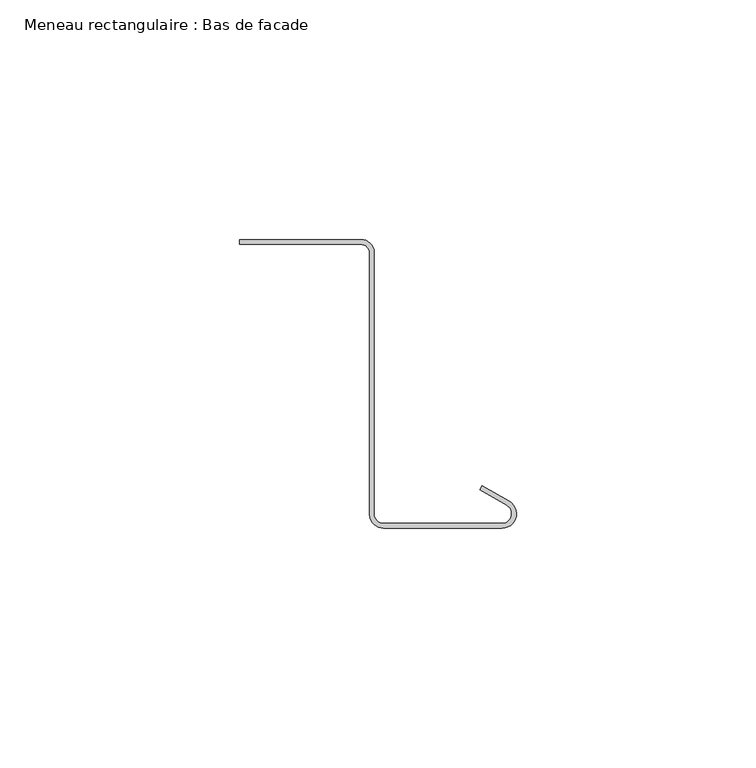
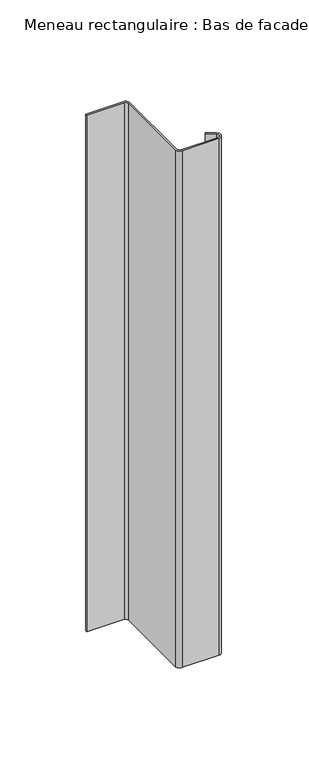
"""IFC4 building model written with IfcOpenShell, lengths in millimetres: member geometry, Meneau rectangulaire : Bas de facade."""

import ifcopenshell
import ifcopenshell.guid

model = None  # the IFC model being written
_history = None  # IfcOwnerHistory: only IFC2X3 demands one
_inside = {}  # id of a spatial element -> (the spatial element, [elements in it])
_under = {}  # id of a project, library or spatial element -> (it, [spatial elements below it])
_declared = {}  # id of a project -> (the project, [libraries it declares])
_typed = {}  # id of a type object -> (the type object, [elements of that type])
_made_of = {}  # id of a material, layer set ... -> (it, [elements and type objects made of it])


def new_model(schema):
    """Start an empty IFC model of exactly this schema.

    Asked for "IFC4X3", IfcOpenShell would pick the latest addendum, in which some entities
    have other attributes; the version numbers below select the first issue.
    IFC2X3 requires an IfcOwnerHistory on every rooted entity: one is made here for all.
    """
    global model, _history
    if schema == "IFC4X3":
        model = ifcopenshell.file(schema_version=(4, 3, 0, 0))
    else:
        model = ifcopenshell.file(schema=schema)
    _inside.clear()
    _under.clear()
    _declared.clear()
    _typed.clear()
    _made_of.clear()
    _history = None
    if model.schema == "IFC2X3":
        org = make("IfcOrganization", Name="unknown")
        user = make(
            "IfcPersonAndOrganization",
            ThePerson=make("IfcPerson", FamilyName="unknown"),
            TheOrganization=org,
        )
        app = make(
            "IfcApplication",
            ApplicationDeveloper=org,
            Version="unknown",
            ApplicationFullName="unknown",
            ApplicationIdentifier="unknown",
        )
        _history = make(
            "IfcOwnerHistory",
            OwningUser=user,
            OwningApplication=app,
            ChangeAction="ADDED",
            CreationDate=0,
        )
    return model


def make(cls, **values):
    """One entity of the class cls with the attributes given. An attribute that is None is left unset."""
    return model.create_entity(
        cls, **{name: value for name, value in values.items() if value is not None}
    )


def rooted(cls, **values):
    """An entity with a GlobalId (a new one), such as an element, a storey or a relation."""
    return make(cls, GlobalId=ifcopenshell.guid.new(), OwnerHistory=_history, **values)


def si_unit(unit_type, name, prefix=None):
    """IfcSIUnit, for example si_unit("LENGTHUNIT", "METRE", prefix="MILLI")."""
    return make("IfcSIUnit", UnitType=unit_type, Prefix=prefix, Name=name)


def assignment(units):
    """IfcUnitAssignment: the units of a project."""
    return None if units is None else make("IfcUnitAssignment", Units=units)


def point(xyz):
    """IfcCartesianPoint."""
    return None if xyz is None else make("IfcCartesianPoint", Coordinates=xyz)


def direction(xyz):
    """IfcDirection."""
    return None if xyz is None else make("IfcDirection", DirectionRatios=xyz)


def frame(location, z_axis=None, x_axis=None):
    """IfcAxis2Placement3D, a coordinate frame: its origin and axes. An axis left out is left unset."""
    return make(
        "IfcAxis2Placement3D",
        Location=point(location),
        Axis=direction(z_axis),
        RefDirection=direction(x_axis),
    )


def frame_2d(location, x_axis=None):
    """IfcAxis2Placement2D, a coordinate frame in the plane: its origin and x axis."""
    return make(
        "IfcAxis2Placement2D", Location=point(location), RefDirection=direction(x_axis)
    )


def origin():
    """The frame at (0, 0, 0) with its axes left unset."""
    return frame((0.0, 0.0, 0.0))


def place(relative_to, where):
    """IfcLocalPlacement: puts the frame where relative to a parent placement (None: the world)."""
    return make(
        "IfcLocalPlacement", PlacementRelTo=relative_to, RelativePlacement=where
    )


def context(
    kind, dimensions, precision=None, world=None, true_north=None, identifier=None
):
    """IfcGeometricRepresentationContext, for example the 3D "Model" context."""
    return make(
        "IfcGeometricRepresentationContext",
        ContextIdentifier=identifier,
        ContextType=kind,
        CoordinateSpaceDimension=dimensions,
        Precision=precision,
        WorldCoordinateSystem=world,
        TrueNorth=true_north,
    )


def project(units=None, contexts=None):
    """IfcProject with its units and contexts."""
    return rooted(
        "IfcProject",
        Name="project",
        RepresentationContexts=contexts,
        UnitsInContext=assignment(units),
    )


def spatial(cls, under=None, at=None, **own):
    """A site, building, storey or space (cls), placed at a placement, below another one or the project."""
    s = rooted(cls, ObjectPlacement=at, **own)
    if under is not None:
        _under.setdefault(under.id(), (under, []))[1].append(s)
    return s


def polyline(points):
    """IfcPolyline through the points."""
    return make("IfcPolyline", Points=[point(p) for p in points])


def circle_curve(where, radius):
    """IfcCircle in the frame where."""
    return make("IfcCircle", Position=where, Radius=radius)


def trimmed(basis, trim1, trim2, sense, master):
    """IfcTrimmedCurve: the piece of a basis curve between two trims."""
    return make(
        "IfcTrimmedCurve",
        BasisCurve=basis,
        Trim1=trim1,
        Trim2=trim2,
        SenseAgreement=sense,
        MasterRepresentation=master,
    )


def segment(curve, same_sense, transition):
    """IfcCompositeCurveSegment."""
    return make(
        "IfcCompositeCurveSegment",
        Transition=transition,
        SameSense=same_sense,
        ParentCurve=curve,
    )


def composite_curve(segments, self_intersect=None):
    """IfcCompositeCurve: segments joined end to end."""
    return make("IfcCompositeCurve", Segments=segments, SelfIntersect=self_intersect)


def outline(outer, holes=None, kind="AREA"):
    """IfcArbitraryClosedProfileDef: a profile drawn as a closed curve; with holes, ...WithVoids."""
    if holes is None:
        return make("IfcArbitraryClosedProfileDef", ProfileType=kind, OuterCurve=outer)
    return make(
        "IfcArbitraryProfileDefWithVoids",
        ProfileType=kind,
        OuterCurve=outer,
        InnerCurves=holes,
    )


def extrude(swept, where, along, depth):
    """IfcExtrudedAreaSolid: the profile swept, set in the frame where, extruded along a direction by depth."""
    return make(
        "IfcExtrudedAreaSolid",
        SweptArea=swept,
        Position=where,
        ExtrudedDirection=direction(along),
        Depth=depth,
    )


def shape(context_of_items, identifier, shape_type, items):
    """IfcShapeRepresentation: the items that make up one representation, for example the "Body"."""
    return make(
        "IfcShapeRepresentation",
        ContextOfItems=context_of_items,
        RepresentationIdentifier=identifier,
        RepresentationType=shape_type,
        Items=items,
    )


def source(mapping_origin, context_of_items, identifier, shape_type, items):
    """IfcRepresentationMap: a shape defined once, which mapped items show again and again."""
    return make(
        "IfcRepresentationMap",
        MappingOrigin=mapping_origin,
        MappedRepresentation=shape(context_of_items, identifier, shape_type, items),
    )


def transform(
    local_origin,
    x_axis=None,
    y_axis=None,
    z_axis=None,
    scale=None,
    scale2=None,
    scale3=None,
    uniform=True,
):
    """IfcCartesianTransformationOperator3D, or its non-uniform kind. x_axis, y_axis, z_axis: its Axis1, 2, 3."""
    if uniform:
        return make(
            "IfcCartesianTransformationOperator3D",
            Axis1=direction(x_axis),
            Axis2=direction(y_axis),
            LocalOrigin=point(local_origin),
            Scale=scale,
            Axis3=direction(z_axis),
        )
    return make(
        "IfcCartesianTransformationOperator3DnonUniform",
        Axis1=direction(x_axis),
        Axis2=direction(y_axis),
        LocalOrigin=point(local_origin),
        Scale=scale,
        Axis3=direction(z_axis),
        Scale2=scale2,
        Scale3=scale3,
    )


def mapped(mapping_source, mapping_target):
    """IfcMappedItem: shows the shape of a source again, moved by a transform."""
    return make(
        "IfcMappedItem", MappingSource=mapping_source, MappingTarget=mapping_target
    )


def made_of(thing, what):
    """Note that an element or type object is made of a material, layer set ...; save() writes the relation."""
    if what is not None:
        _made_of.setdefault(what.id(), (what, []))[1].append(thing)
    return thing


def element(
    cls,
    number,
    at=None,
    inside=None,
    cuts=None,
    type_object=None,
    material=None,
    context=None,
    identifier="Body",
    shape_type=None,
    held_by="IfcProductDefinitionShape",
    body=None,
    shapes=None,
    **own,
):
    """One element of the class cls, such as IfcWall. Its Tag is "e" and its number.

    at: its placement. inside: the storey or other place that contains it. cuts: it is an
    opening in that element (IfcRelVoidsElement). A single representation is given by context,
    identifier, shape_type and body (its items); several are given by shapes. held_by: the class
    of the entity that holds the representations. save() writes the other relations.
    """
    e = rooted(cls, Tag="e%d" % number, ObjectPlacement=at, **own)
    if body is not None:
        shapes = [shape(context, identifier, shape_type, body)]
    if shapes is not None:
        e.Representation = make(held_by, Representations=shapes)
    if inside is not None:
        _inside.setdefault(inside.id(), (inside, []))[1].append(e)
    if cuts is not None:
        rooted(
            "IfcRelVoidsElement", RelatingBuildingElement=cuts, RelatedOpeningElement=e
        )
    if type_object is not None:
        _typed.setdefault(type_object.id(), (type_object, []))[1].append(e)
    return made_of(e, material)


def aggregate(whole, parts):
    """IfcRelAggregates: a whole, such as a stair, and the parts it consists of."""
    return rooted("IfcRelAggregates", RelatingObject=whole, RelatedObjects=parts)


def save(model, path):
    """Write the relations noted so far, then the file.

    IfcRelAggregates (storeys below a building ...), IfcRelContainedInSpatialStructure (elements
    in a storey), IfcRelDefinesByType, IfcRelAssociatesMaterial and IfcRelDeclares: one each for
    every whole, place, type object, material and project.
    """
    for whole, parts in _under.values():
        aggregate(whole, parts)
    for where, things in _inside.values():
        rooted(
            "IfcRelContainedInSpatialStructure",
            RelatedElements=things,
            RelatingStructure=where,
        )
    for kind, things in _typed.values():
        rooted("IfcRelDefinesByType", RelatedObjects=things, RelatingType=kind)
    for what, things in _made_of.values():
        rooted("IfcRelAssociatesMaterial", RelatedObjects=things, RelatingMaterial=what)
    for by, libraries in _declared.values():
        rooted("IfcRelDeclares", RelatingContext=by, RelatedDefinitions=libraries)
    model.write(path)


def meneau_rectangulaire_bas_de_facade_77d001c4(model_context):
    return source(origin(), model_context, "Body", "SweptSolid", [
        extrude(outline(composite_curve([segment(trimmed(circle_curve(frame_2d((-32.4584179, 0.2088923)), 2.75), [point((-32.4584179, 2.9588923))], [point((-29.7143802, 0.3898824))], False, "CARTESIAN"), True, "CONTINUOUS"), segment(polyline([(-29.7143802, 0.3898824), (-29.7143802, -54.5495817)]), True, "CONTINUOUS"), segment(trimmed(circle_curve(frame_2d((-27.735368, -54.2605998)), 2.0), [point((-29.7143802, -54.5495817))], [point((-27.735368, -56.2605998))], True, "CARTESIAN"), True, "CONTINUOUS"), segment(polyline([(-27.735368, -56.2605998), (-3.0, -56.2605998)]), True, "CONTINUOUS"), segment(trimmed(circle_curve(frame_2d((-3.0, -54.2605998)), 2.0), [point((-3.0, -56.2605998))], [point((-2.0, -52.528549))], True, "CARTESIAN"), True, "CONTINUOUS"), segment(polyline([(-2.0, -52.528549), (-7.6638061, -49.258549), (-7.1638061, -48.3925235), (-1.5, -51.6625235)]), True, "CONTINUOUS"), segment(trimmed(circle_curve(frame_2d((-3.0, -54.2605998)), 3.0), [point((-1.5, -51.6625235))], [point((-3.0, -57.2605998))], False, "CARTESIAN"), True, "CONTINUOUS"), segment(polyline([(-3.0, -57.2605998), (-27.735368, -57.2605998)]), True, "CONTINUOUS"), segment(trimmed(circle_curve(frame_2d((-27.735368, -54.2605998)), 3.0), [point((-27.735368, -57.2605998))], [point((-30.7239521, -54.522067))], False, "CARTESIAN"), True, "CONTINUOUS"), segment(polyline([(-30.7239521, -54.522067), (-30.7239521, 0.4415475)]), True, "CONTINUOUS"), segment(trimmed(circle_curve(frame_2d((-32.4584179, 0.2088923)), 1.75), [point((-30.7239521, 0.4415475))], [point((-32.4584179, 1.9588923))], True, "CARTESIAN"), True, "CONTINUOUS"), segment(polyline([(-32.4584179, 1.9588923), (-57.8548383, 1.9588923), (-57.8548383, 2.9588923), (-32.4584179, 2.9588923)]), True, "CONTINUOUS")], self_intersect=False)), frame((0.0, 0.0, -368.0), z_axis=(0.0, 0.0, 1.0), x_axis=(1.0, 0.0, 0.0)), (0.0, 0.0, 1.0), 368.0),
    ])


if __name__ == "__main__":
    model = new_model("IFC4")
    model_context = context("Model", 3, world=origin())
    ifc_project = project(units=[si_unit("LENGTHUNIT", "METRE", prefix="MILLI")], contexts=[model_context])
    site = spatial("IfcSite", under=ifc_project)
    building = spatial("IfcBuilding", under=site)
    placement = place(None, origin())
    meneau_rectangulaire_bas_de_facade_shape = meneau_rectangulaire_bas_de_facade_77d001c4(model_context)
    element("IfcMember", 1, ObjectType="Meneau rectangulaire : Bas de facade", at=placement, inside=building, context=model_context, shape_type="MappedRepresentation", body=[
        mapped(meneau_rectangulaire_bas_de_facade_shape, transform((0.0, 0.0, 0.0), x_axis=(1.0, 0.0, 0.0), y_axis=(0.0, 1.0, 0.0), z_axis=(0.0, 0.0, 1.0))),
    ])
    save(model, "model.ifc")
